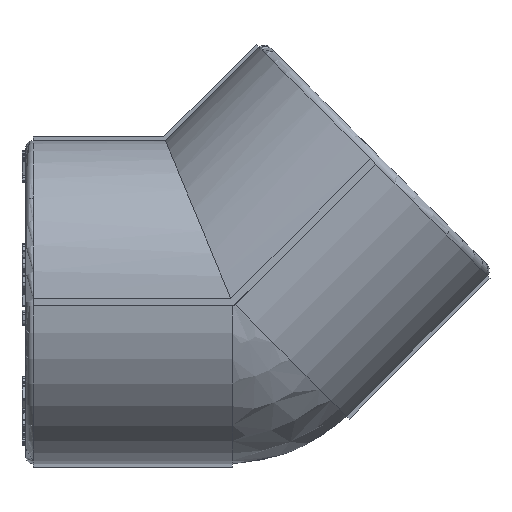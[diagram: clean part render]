
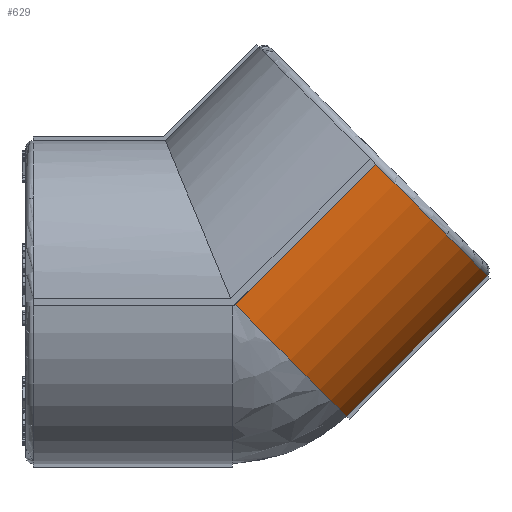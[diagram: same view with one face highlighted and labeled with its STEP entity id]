
A CAD part, left-side view. The second image highlights one B-rep face of the part: STEP entity #629.
In plain terms, the highlighted cylindrical face has radius 21.5 mm (diameter 43 mm), a partial arc.
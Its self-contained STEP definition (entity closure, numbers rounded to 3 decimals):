
#629=ADVANCED_FACE('',(#4414),#4416,.T.);
#4414=FACE_BOUND('',#4415,.T.);
#4415=EDGE_LOOP('',(#8733,#8734,#8735,#8736));
#4416=CYLINDRICAL_SURFACE('',#4417,21.5);
#4417=AXIS2_PLACEMENT_3D('',#4418,#4419,#4420);
#4418=CARTESIAN_POINT('',(0.,0.,0.));
#4419=DIRECTION('',(0.,-0.707,0.707));
#4420=DIRECTION('',(0.,0.707,0.707));
#8733=ORIENTED_EDGE('',*,*,#10374,.F.);
#8734=ORIENTED_EDGE('',*,*,#10365,.F.);
#8735=ORIENTED_EDGE('',*,*,#10393,.F.);
#8736=ORIENTED_EDGE('',*,*,#10380,.F.);
#10365=EDGE_CURVE('',#13061,#13063,#13064,.T.);
#10374=EDGE_CURVE('',#13063,#13076,#13077,.T.);
#10380=EDGE_CURVE('',#13076,#13084,#13085,.T.);
#10393=EDGE_CURVE('',#13084,#13061,#13103,.F.);
#13061=VERTEX_POINT('',#18984);
#13063=VERTEX_POINT('',#18989);
#13064=CIRCLE('',#18990,21.5);
#13076=VERTEX_POINT('',#19024);
#13077=LINE('',#19025,#19026);
#13084=VERTEX_POINT('',#19047);
#13085=CIRCLE('',#19048,21.5);
#13103=LINE('',#19097,#19098);
#18984=CARTESIAN_POINT('',(-0.5,-15.199,-15.199));
#18989=CARTESIAN_POINT('',(-21.494,-0.354,-0.354));
#18990=AXIS2_PLACEMENT_3D('',#18991,#18992,#18993);
#18991=CARTESIAN_POINT('',(0.,0.,0.));
#18992=DIRECTION('',(0.,0.707,-0.707));
#18993=DIRECTION('',(-0.023,-0.707,-0.707));
#19024=CARTESIAN_POINT('',(-21.494,-19.092,18.385));
#19025=CARTESIAN_POINT('',(-21.494,-0.354,-0.354));
#19026=VECTOR('',#19027,1.);
#19027=DIRECTION('',(0.,-0.707,0.707));
#19047=CARTESIAN_POINT('',(-0.5,-33.937,3.54));
#19048=AXIS2_PLACEMENT_3D('',#19049,#19050,#19051);
#19049=CARTESIAN_POINT('',(0.,-18.738,18.738));
#19050=DIRECTION('',(0.,-0.707,0.707));
#19051=DIRECTION('',(-1.,-0.016,-0.016));
#19097=CARTESIAN_POINT('',(-0.5,-15.199,-15.199));
#19098=VECTOR('',#19099,1.);
#19099=DIRECTION('',(0.,-0.707,0.707));
